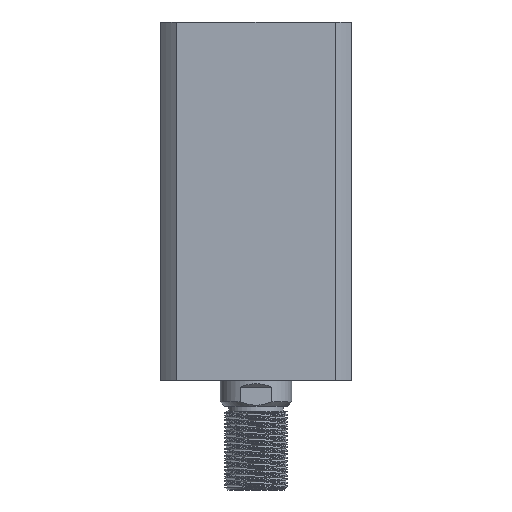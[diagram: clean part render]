
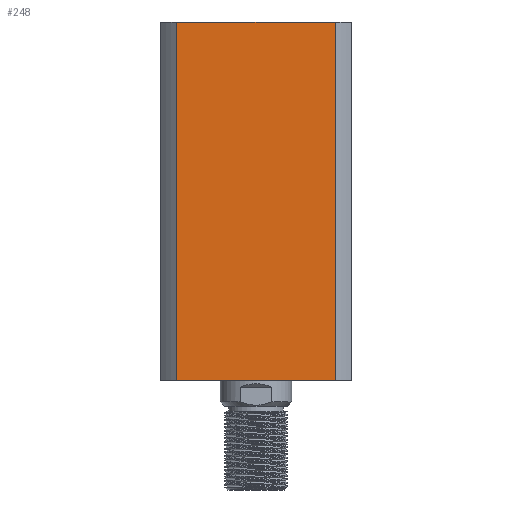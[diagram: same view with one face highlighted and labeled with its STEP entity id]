
A CAD part, left-side view. The second image highlights one B-rep face of the part: STEP entity #248.
In plain terms, the highlighted planar face has unit normal (-1, 0, 0).
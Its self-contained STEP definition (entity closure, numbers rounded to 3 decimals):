
#224 = VECTOR ( 'NONE', #7736, 1000. ) ;
#248 = ADVANCED_FACE ( 'NONE', ( #17764 ), #7871, .F. ) ;
#898 = CARTESIAN_POINT ( 'NONE',  ( -40., 33.226, -75. ) ) ;
#1210 = ORIENTED_EDGE ( 'NONE', *, *, #8909, .T. ) ;
#1299 = EDGE_CURVE ( 'NONE', #3900, #15330, #15775, .T. ) ;
#2325 = CARTESIAN_POINT ( 'NONE',  ( -40., 33.226, 75. ) ) ;
#2332 = DIRECTION ( 'NONE',  ( 0., -1., 0. ) ) ;
#2727 = DIRECTION ( 'NONE',  ( 0., -1., 0. ) ) ;
#3900 = VERTEX_POINT ( 'NONE', #4477 ) ;
#4477 = CARTESIAN_POINT ( 'NONE',  ( -40., -33.226, 75. ) ) ;
#4524 = EDGE_LOOP ( 'NONE', ( #16790, #9591, #9753, #1210 ) ) ;
#4581 = CARTESIAN_POINT ( 'NONE',  ( -40., -33.226, 75. ) ) ;
#4927 = EDGE_CURVE ( 'NONE', #11058, #15330, #9403, .T. ) ;
#5280 = EDGE_CURVE ( 'NONE', #17043, #3900, #5916, .T. ) ;
#5886 = CARTESIAN_POINT ( 'NONE',  ( -40., 33.226, -75. ) ) ;
#5916 = LINE ( 'NONE', #9514, #9176 ) ;
#7667 = VECTOR ( 'NONE', #2332, 1000. ) ;
#7736 = DIRECTION ( 'NONE',  ( 0., 0., -1. ) ) ;
#7871 = PLANE ( 'NONE',  #17608 ) ;
#8909 = EDGE_CURVE ( 'NONE', #17043, #11058, #11305, .T. ) ;
#9176 = VECTOR ( 'NONE', #2727, 1000. ) ;
#9258 = CARTESIAN_POINT ( 'NONE',  ( -40., 33.226, 75. ) ) ;
#9403 = LINE ( 'NONE', #898, #7667 ) ;
#9514 = CARTESIAN_POINT ( 'NONE',  ( -40., 33.226, 75. ) ) ;
#9591 = ORIENTED_EDGE ( 'NONE', *, *, #1299, .F. ) ;
#9753 = ORIENTED_EDGE ( 'NONE', *, *, #5280, .F. ) ;
#11058 = VERTEX_POINT ( 'NONE', #5886 ) ;
#11305 = LINE ( 'NONE', #2325, #224 ) ;
#11971 = CARTESIAN_POINT ( 'NONE',  ( -40., -33.226, -75. ) ) ;
#12184 = CARTESIAN_POINT ( 'NONE',  ( -40., 33.226, 75. ) ) ;
#14804 = DIRECTION ( 'NONE',  ( 1., 0., 0. ) ) ;
#15330 = VERTEX_POINT ( 'NONE', #11971 ) ;
#15775 = LINE ( 'NONE', #4581, #16215 ) ;
#16215 = VECTOR ( 'NONE', #17050, 1000. ) ;
#16790 = ORIENTED_EDGE ( 'NONE', *, *, #4927, .T. ) ;
#17043 = VERTEX_POINT ( 'NONE', #12184 ) ;
#17050 = DIRECTION ( 'NONE',  ( 0., 0., -1. ) ) ;
#17328 = DIRECTION ( 'NONE',  ( 0., 1., 0. ) ) ;
#17608 = AXIS2_PLACEMENT_3D ( 'NONE', #9258, #14804, #17328 ) ;
#17764 = FACE_OUTER_BOUND ( 'NONE', #4524, .T. ) ;
